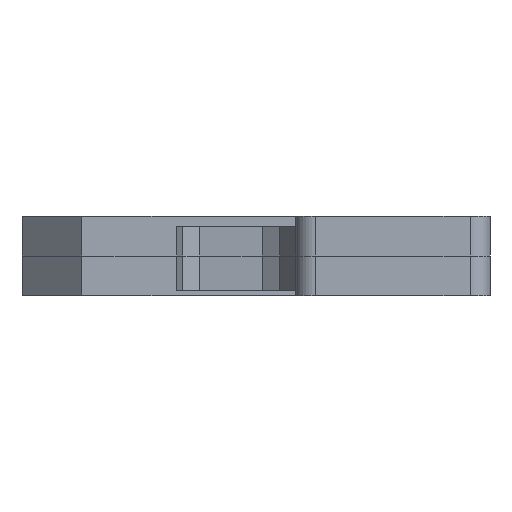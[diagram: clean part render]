
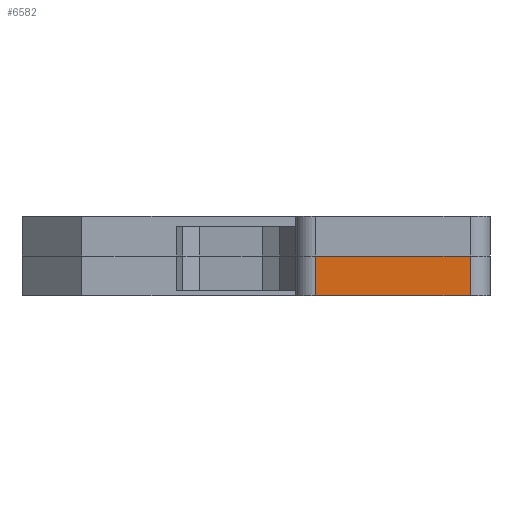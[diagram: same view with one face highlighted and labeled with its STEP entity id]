
A CAD part, left-side view. The second image highlights one B-rep face of the part: STEP entity #6582.
In plain terms, the highlighted planar face has unit normal (-1, 0, 0).
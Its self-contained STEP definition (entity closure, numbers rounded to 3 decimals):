
#6582 = ADVANCED_FACE('',(#6583),#6597,.T.);
#6583 = FACE_BOUND('',#6584,.T.);
#6584 = EDGE_LOOP('',(#6585,#6608,#6624,#6640));
#6585 = ORIENTED_EDGE('',*,*,#6586,.F.);
#6586 = EDGE_CURVE('',#6587,#6589,#6591,.T.);
#6587 = VERTEX_POINT('',#6588);
#6588 = CARTESIAN_POINT('',(-18.065,165.657,-8.));
#6589 = VERTEX_POINT('',#6590);
#6590 = CARTESIAN_POINT('',(-18.065,181.192,-8.));
#6591 = SURFACE_CURVE('',#6592,(#6596),.PCURVE_S1.);
#6592 = LINE('',#6593,#6594);
#6593 = CARTESIAN_POINT('',(-18.065,165.657,-8.));
#6594 = VECTOR('',#6595,1.);
#6595 = DIRECTION('',(0.,1.,0.));
#6596 = PCURVE('',#6597,#6602);
#6597 = PLANE('',#6598);
#6598 = AXIS2_PLACEMENT_3D('',#6599,#6600,#6601);
#6599 = CARTESIAN_POINT('',(-18.065,165.657,0.));
#6600 = DIRECTION('',(-1.,0.,0.));
#6601 = DIRECTION('',(0.,1.,0.));
#6602 = DEFINITIONAL_REPRESENTATION('',(#6603),#6607);
#6603 = LINE('',#6604,#6605);
#6604 = CARTESIAN_POINT('',(0.,8.));
#6605 = VECTOR('',#6606,1.);
#6606 = DIRECTION('',(1.,0.));
#6607 = ( GEOMETRIC_REPRESENTATION_CONTEXT(2) 
PARAMETRIC_REPRESENTATION_CONTEXT() REPRESENTATION_CONTEXT('2D SPACE',''
  ) );
#6608 = ORIENTED_EDGE('',*,*,#6609,.F.);
#6609 = EDGE_CURVE('',#6610,#6587,#6612,.T.);
#6610 = VERTEX_POINT('',#6611);
#6611 = CARTESIAN_POINT('',(-18.065,165.657,-4.));
#6612 = SURFACE_CURVE('',#6613,(#6617),.PCURVE_S1.);
#6613 = LINE('',#6614,#6615);
#6614 = CARTESIAN_POINT('',(-18.065,165.657,0.));
#6615 = VECTOR('',#6616,1.);
#6616 = DIRECTION('',(0.,0.,-1.));
#6617 = PCURVE('',#6597,#6618);
#6618 = DEFINITIONAL_REPRESENTATION('',(#6619),#6623);
#6619 = LINE('',#6620,#6621);
#6620 = CARTESIAN_POINT('',(0.,0.));
#6621 = VECTOR('',#6622,1.);
#6622 = DIRECTION('',(0.,1.));
#6623 = ( GEOMETRIC_REPRESENTATION_CONTEXT(2) 
PARAMETRIC_REPRESENTATION_CONTEXT() REPRESENTATION_CONTEXT('2D SPACE',''
  ) );
#6624 = ORIENTED_EDGE('',*,*,#6625,.F.);
#6625 = EDGE_CURVE('',#6626,#6610,#6628,.T.);
#6626 = VERTEX_POINT('',#6627);
#6627 = CARTESIAN_POINT('',(-18.065,181.192,-4.));
#6628 = SURFACE_CURVE('',#6629,(#6633),.PCURVE_S1.);
#6629 = LINE('',#6630,#6631);
#6630 = CARTESIAN_POINT('',(-18.065,165.657,-4.));
#6631 = VECTOR('',#6632,1.);
#6632 = DIRECTION('',(0.,-1.,0.));
#6633 = PCURVE('',#6597,#6634);
#6634 = DEFINITIONAL_REPRESENTATION('',(#6635),#6639);
#6635 = LINE('',#6636,#6637);
#6636 = CARTESIAN_POINT('',(0.,4.));
#6637 = VECTOR('',#6638,1.);
#6638 = DIRECTION('',(-1.,0.));
#6639 = ( GEOMETRIC_REPRESENTATION_CONTEXT(2) 
PARAMETRIC_REPRESENTATION_CONTEXT() REPRESENTATION_CONTEXT('2D SPACE',''
  ) );
#6640 = ORIENTED_EDGE('',*,*,#6641,.T.);
#6641 = EDGE_CURVE('',#6626,#6589,#6642,.T.);
#6642 = SURFACE_CURVE('',#6643,(#6647),.PCURVE_S1.);
#6643 = LINE('',#6644,#6645);
#6644 = CARTESIAN_POINT('',(-18.065,181.192,0.));
#6645 = VECTOR('',#6646,1.);
#6646 = DIRECTION('',(0.,0.,-1.));
#6647 = PCURVE('',#6597,#6648);
#6648 = DEFINITIONAL_REPRESENTATION('',(#6649),#6653);
#6649 = LINE('',#6650,#6651);
#6650 = CARTESIAN_POINT('',(15.535,0.));
#6651 = VECTOR('',#6652,1.);
#6652 = DIRECTION('',(0.,1.));
#6653 = ( GEOMETRIC_REPRESENTATION_CONTEXT(2) 
PARAMETRIC_REPRESENTATION_CONTEXT() REPRESENTATION_CONTEXT('2D SPACE',''
  ) );
